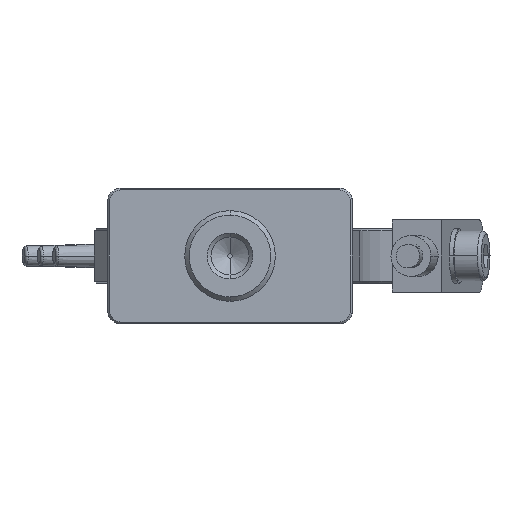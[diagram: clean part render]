
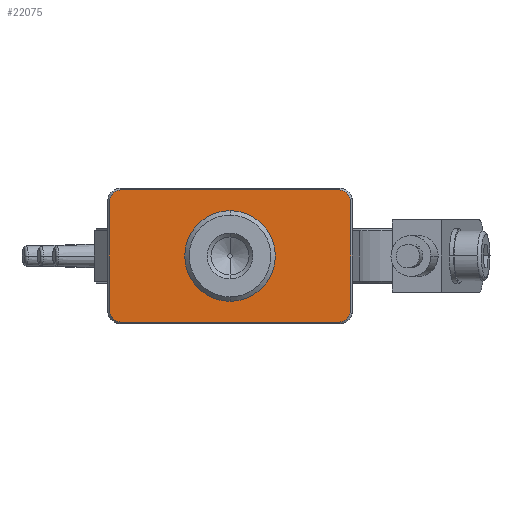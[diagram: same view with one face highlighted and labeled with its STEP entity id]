
A CAD part, front view. The second image highlights one B-rep face of the part: STEP entity #22075.
In plain terms, the highlighted planar face has unit normal (0, -1, 0).
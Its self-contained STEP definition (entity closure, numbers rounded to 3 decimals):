
#6 = EDGE_LOOP ( 'NONE', ( #22038, #23521 ) ) ;
#1013 = EDGE_CURVE ( 'NONE', #11016, #26898, #2651, .T. ) ;
#1547 = EDGE_LOOP ( 'NONE', ( #16408, #12638, #7676, #27286, #18812, #1695, #7206, #2270 ) ) ;
#1695 = ORIENTED_EDGE ( 'NONE', *, *, #2530, .T. ) ;
#1697 = VERTEX_POINT ( 'NONE', #13946 ) ;
#1843 = VECTOR ( 'NONE', #19567, 1000. ) ;
#1867 = CARTESIAN_POINT ( 'NONE',  ( -24.888, -23.942, 82.4 ) ) ;
#2132 = CARTESIAN_POINT ( 'NONE',  ( 0.412, -23.942, 68.9 ) ) ;
#2270 = ORIENTED_EDGE ( 'NONE', *, *, #12553, .T. ) ;
#2530 = EDGE_CURVE ( 'NONE', #22549, #1697, #9198, .T. ) ;
#2651 = LINE ( 'NONE', #28456, #1843 ) ;
#2727 = DIRECTION ( 'NONE',  ( 0., 0., 1. ) ) ;
#3970 = VERTEX_POINT ( 'NONE', #26851 ) ;
#4203 = CARTESIAN_POINT ( 'NONE',  ( -11.588, -23.942, 74.9 ) ) ;
#4416 = DIRECTION ( 'NONE',  ( -1., 0., 0. ) ) ;
#4644 = DIRECTION ( 'NONE',  ( 0., 1., 0. ) ) ;
#4714 = VECTOR ( 'NONE', #6434, 1000. ) ;
#5429 = LINE ( 'NONE', #1867, #4714 ) ;
#6124 = VERTEX_POINT ( 'NONE', #20894 ) ;
#6434 = DIRECTION ( 'NONE',  ( 0., 0., -1. ) ) ;
#6480 = DIRECTION ( 'NONE',  ( 0., 0., -1. ) ) ;
#6629 = CARTESIAN_POINT ( 'NONE',  ( -23.588, -23.942, 82.2 ) ) ;
#7171 = VERTEX_POINT ( 'NONE', #14895 ) ;
#7206 = ORIENTED_EDGE ( 'NONE', *, *, #21840, .F. ) ;
#7676 = ORIENTED_EDGE ( 'NONE', *, *, #21631, .F. ) ;
#9198 = LINE ( 'NONE', #22208, #9299 ) ;
#9258 = FACE_OUTER_BOUND ( 'NONE', #1547, .T. ) ;
#9299 = VECTOR ( 'NONE', #22132, 1000. ) ;
#9642 = CARTESIAN_POINT ( 'NONE',  ( -23.588, -23.942, 67.6 ) ) ;
#10504 = EDGE_CURVE ( 'NONE', #6124, #3970, #13795, .T. ) ;
#10908 = EDGE_CURVE ( 'NONE', #3970, #6124, #20266, .T. ) ;
#11016 = VERTEX_POINT ( 'NONE', #18460 ) ;
#11596 = CARTESIAN_POINT ( 'NONE',  ( -24.888, -23.942, 68.9 ) ) ;
#11943 = DIRECTION ( 'NONE',  ( 0., 1., 0. ) ) ;
#12114 = DIRECTION ( 'NONE',  ( 0., 0., -1. ) ) ;
#12388 = EDGE_CURVE ( 'NONE', #15453, #24109, #5429, .T. ) ;
#12523 = CARTESIAN_POINT ( 'NONE',  ( -23.588, -23.942, 80.9 ) ) ;
#12553 = EDGE_CURVE ( 'NONE', #7171, #13129, #26560, .T. ) ;
#12638 = ORIENTED_EDGE ( 'NONE', *, *, #1013, .T. ) ;
#13117 = DIRECTION ( 'NONE',  ( 0., 1., 0. ) ) ;
#13129 = VERTEX_POINT ( 'NONE', #22759 ) ;
#13795 = CIRCLE ( 'NONE', #27154, 5. ) ;
#13946 = CARTESIAN_POINT ( 'NONE',  ( 0.412, -23.942, 67.6 ) ) ;
#14246 = CARTESIAN_POINT ( 'NONE',  ( 0.912, -23.942, 82.4 ) ) ;
#14761 = DIRECTION ( 'NONE',  ( 0., 0., 1. ) ) ;
#14790 = CIRCLE ( 'NONE', #18597, 1.3 ) ;
#14895 = CARTESIAN_POINT ( 'NONE',  ( 1.712, -23.942, 68.9 ) ) ;
#15453 = VERTEX_POINT ( 'NONE', #26793 ) ;
#16408 = ORIENTED_EDGE ( 'NONE', *, *, #23128, .F. ) ;
#17906 = DIRECTION ( 'NONE',  ( 0., 1., 0. ) ) ;
#18154 = CARTESIAN_POINT ( 'NONE',  ( -11.588, -23.942, 74.9 ) ) ;
#18460 = CARTESIAN_POINT ( 'NONE',  ( 0.412, -23.942, 82.2 ) ) ;
#18597 = AXIS2_PLACEMENT_3D ( 'NONE', #25547, #11943, #27709 ) ;
#18775 = AXIS2_PLACEMENT_3D ( 'NONE', #26700, #13117, #28861 ) ;
#18812 = ORIENTED_EDGE ( 'NONE', *, *, #23329, .F. ) ;
#18871 = CIRCLE ( 'NONE', #19654, 1.3 ) ;
#19386 = AXIS2_PLACEMENT_3D ( 'NONE', #14246, #25717, #12114 ) ;
#19567 = DIRECTION ( 'NONE',  ( -1., 0., 0. ) ) ;
#19654 = AXIS2_PLACEMENT_3D ( 'NONE', #2132, #17906, #4416 ) ;
#19824 = AXIS2_PLACEMENT_3D ( 'NONE', #12523, #28266, #14761 ) ;
#20013 = DIRECTION ( 'NONE',  ( 0., 1., 0. ) ) ;
#20266 = CIRCLE ( 'NONE', #26871, 5. ) ;
#20459 = DIRECTION ( 'NONE',  ( 0., 0., -1. ) ) ;
#20637 = FACE_BOUND ( 'NONE', #6, .T. ) ;
#20827 = CARTESIAN_POINT ( 'NONE',  ( 1.712, -23.942, 82.4 ) ) ;
#20894 = CARTESIAN_POINT ( 'NONE',  ( -11.588, -23.942, 79.9 ) ) ;
#21631 = EDGE_CURVE ( 'NONE', #15453, #26898, #22408, .T. ) ;
#21840 = EDGE_CURVE ( 'NONE', #7171, #1697, #18871, .T. ) ;
#22038 = ORIENTED_EDGE ( 'NONE', *, *, #10908, .T. ) ;
#22075 = ADVANCED_FACE ( 'NONE', ( #20637, #9258 ), #23447, .T. ) ;
#22132 = DIRECTION ( 'NONE',  ( 1., 0., 0. ) ) ;
#22208 = CARTESIAN_POINT ( 'NONE',  ( 0.912, -23.942, 67.6 ) ) ;
#22408 = CIRCLE ( 'NONE', #19824, 1.3 ) ;
#22549 = VERTEX_POINT ( 'NONE', #9642 ) ;
#22759 = CARTESIAN_POINT ( 'NONE',  ( 1.712, -23.942, 80.9 ) ) ;
#23128 = EDGE_CURVE ( 'NONE', #11016, #13129, #23760, .T. ) ;
#23329 = EDGE_CURVE ( 'NONE', #22549, #24109, #14790, .T. ) ;
#23447 = PLANE ( 'NONE',  #19386 ) ;
#23521 = ORIENTED_EDGE ( 'NONE', *, *, #10504, .T. ) ;
#23760 = CIRCLE ( 'NONE', #18775, 1.3 ) ;
#24109 = VERTEX_POINT ( 'NONE', #11596 ) ;
#25547 = CARTESIAN_POINT ( 'NONE',  ( -23.588, -23.942, 68.9 ) ) ;
#25717 = DIRECTION ( 'NONE',  ( 0., -1., 0. ) ) ;
#25890 = VECTOR ( 'NONE', #2727, 1000. ) ;
#26560 = LINE ( 'NONE', #20827, #25890 ) ;
#26700 = CARTESIAN_POINT ( 'NONE',  ( 0.412, -23.942, 80.9 ) ) ;
#26793 = CARTESIAN_POINT ( 'NONE',  ( -24.888, -23.942, 80.9 ) ) ;
#26851 = CARTESIAN_POINT ( 'NONE',  ( -11.588, -23.942, 69.9 ) ) ;
#26871 = AXIS2_PLACEMENT_3D ( 'NONE', #18154, #4644, #20459 ) ;
#26898 = VERTEX_POINT ( 'NONE', #6629 ) ;
#27154 = AXIS2_PLACEMENT_3D ( 'NONE', #4203, #20013, #6480 ) ;
#27286 = ORIENTED_EDGE ( 'NONE', *, *, #12388, .T. ) ;
#27709 = DIRECTION ( 'NONE',  ( -1., 0., 0. ) ) ;
#28266 = DIRECTION ( 'NONE',  ( 0., 1., 0. ) ) ;
#28456 = CARTESIAN_POINT ( 'NONE',  ( 0.912, -23.942, 82.2 ) ) ;
#28861 = DIRECTION ( 'NONE',  ( 0., 0., 1. ) ) ;
